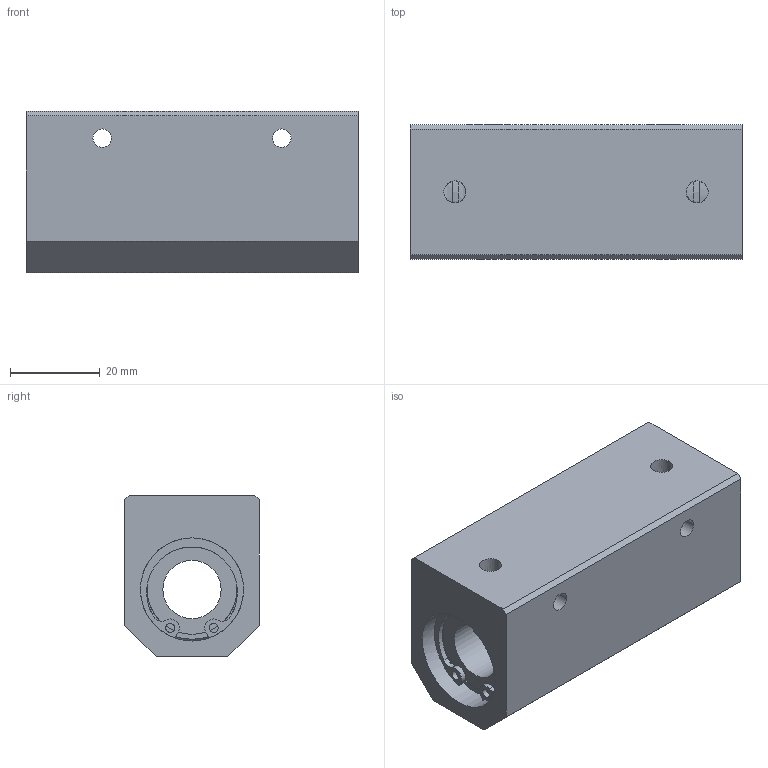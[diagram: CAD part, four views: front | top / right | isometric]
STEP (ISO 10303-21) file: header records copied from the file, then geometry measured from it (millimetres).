
FILE_DESCRIPTION((''),'2;1');
FILE_NAME('D:\製品 (図面)\カタログ用3D\リニアベアリング関連(改)\STEP形式\CHW\CHW13.stp','2010-01-25T09:40:03',('Tsuchiya'),(''),'Autodesk Inventor 10','Autodesk Inventor 10','');
FILE_SCHEMA(('AUTOMOTIVE_DESIGN { 1 0 10303 214 1 1 1 1 }'));
Length unit declared in the file: millimetre
Products named in the file (1): CHW13
Bounding box: 74 x 30 x 36 mm (x, y, z)
Volume: 61868.1 mm3; surface area: 17436 mm2
Topology: 1 solids, 4 shells, 92 faces, 225 edges, 139 vertices
Faces by surface type: bspline 41, plane 28, cylinder 21, torus 2
Full cylindrical faces by diameter (mm): 2 x2, 13 x1, 20 x2, 22 x2, 23 x5
Entity records: 2940 total; most frequent: CARTESIAN_POINT 998, DIRECTION 390, ORIENTED_EDGE 358, EDGE_CURVE 179, AXIS2_PLACEMENT_3D 169, EDGE_LOOP 148, VERTEX_POINT 123, CIRCLE 117
